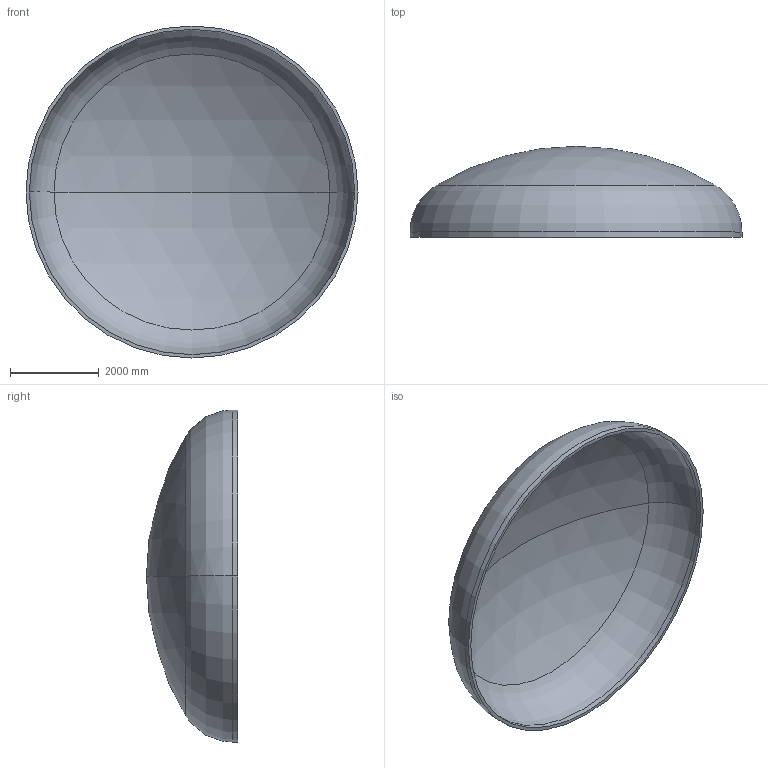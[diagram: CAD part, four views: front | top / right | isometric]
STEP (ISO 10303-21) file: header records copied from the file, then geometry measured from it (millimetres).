
FILE_DESCRIPTION (( 'STEP AP203' ), '1' );
FILE_NAME ('DIN 28013 Korbbogenform_-_Boden DIN 28013 - 7500 x 120 - I - s=76.step', '2016-07-04T10:55:51', ( '' ), ( '' ), 'SwSTEP 2.0', 'SolidWorks 2013', '' );
FILE_SCHEMA (( 'CONFIG_CONTROL_DESIGN' ));
Length unit declared in the file: millimetre
Products named in the file (1): DIN 28013 Korbbogenform_-_Boden DIN 28013 - 7500 x 120 - I - s=76
Bounding box: 7500 x 2057.32 x 7500 mm (x, y, z)
Volume: 4801002088.2 mm3; surface area: 128126770.7 mm2
Topology: 1 solids, 1 shells, 13 faces, 24 edges, 14 vertices
Faces by surface type: torus 4, cylinder 4, sphere 4, plane 1
Entity records: 407 total; most frequent: DIRECTION 72, CARTESIAN_POINT 52, ORIENTED_EDGE 48, AXIS2_PLACEMENT_3D 34, EDGE_CURVE 24, CIRCLE 20, EDGE_LOOP 14, VERTEX_POINT 14
